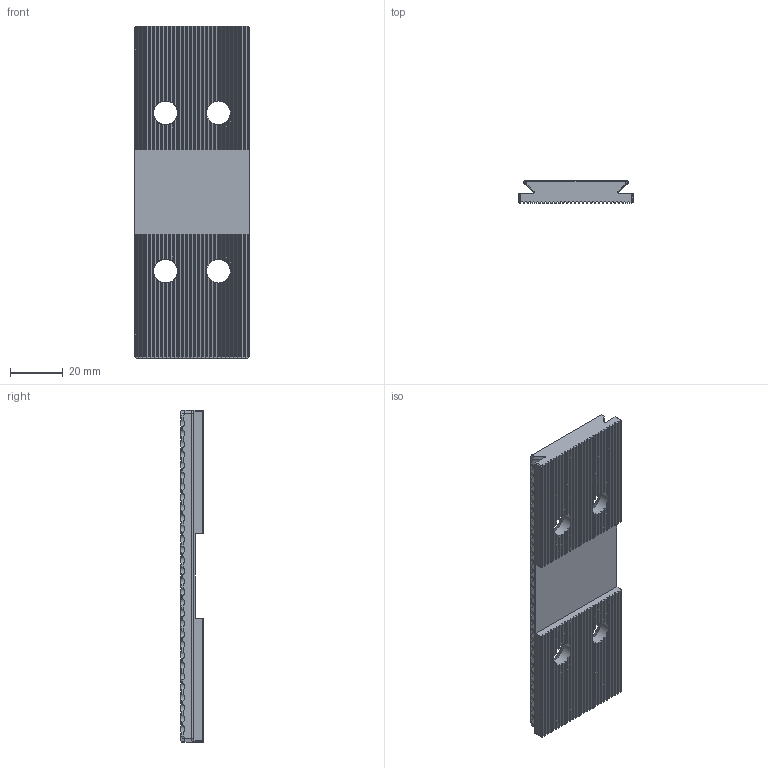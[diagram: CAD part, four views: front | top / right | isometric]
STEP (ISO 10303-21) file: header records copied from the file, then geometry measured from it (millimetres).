
FILE_DESCRIPTION (( 'STEP AP214' ), '1' );
FILE_NAME ('VSJ-APV-160.STEP', '2026-07-20T17:39:39', ( '' ), ( '' ), 'SwSTEP 2.0', 'SolidWorks 2024', '' );
FILE_SCHEMA (( 'AUTOMOTIVE_DESIGN' ));
Length unit declared in the file: millimetre
Products named in the file (1): VSJ-APV-160
Bounding box: 43.5 x 8.5 x 125.86 mm (x, y, z)
Volume: 33044.3 mm3; surface area: 16991.6 mm2
Topology: 1 solids, 1 shells, 566 faces, 1696 edges, 1128 vertices
Faces by surface type: plane 396, cylinder 162, bspline 4, cone 4
Full cylindrical faces by diameter (mm): 9 x4
Entity records: 19379 total; most frequent: CARTESIAN_POINT 4927, ORIENTED_EDGE 3368, DIRECTION 2698, EDGE_CURVE 1684, VERTEX_POINT 1124, LINE 1084, VECTOR 1084, AXIS2_PLACEMENT_3D 807
